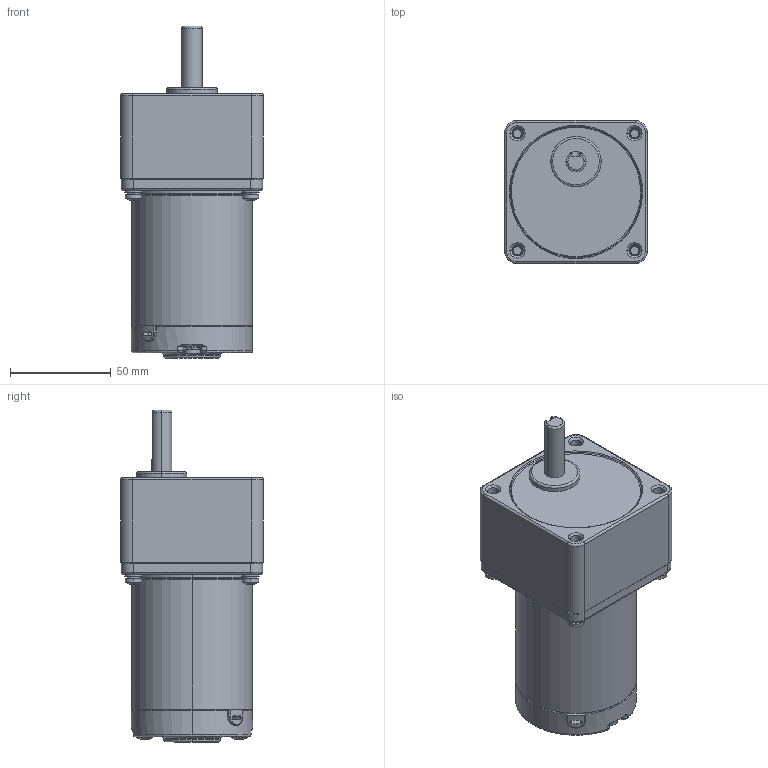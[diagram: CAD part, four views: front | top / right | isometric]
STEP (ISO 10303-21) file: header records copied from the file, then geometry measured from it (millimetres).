
FILE_DESCRIPTION (( 'STEP AP203' ), '1' );
FILE_NAME ('70 65儂褲囀离.STEP', '2021-07-13T08:27:34', ( '' ), ( '' ), 'SwSTEP 2.0', 'SolidWorks 2019', '' );
FILE_SCHEMA (( 'CONFIG_CONTROL_DESIGN' ));
Length unit declared in the file: millimetre
Products named in the file (12): 蚾饜极31^70 51儂褲囀离; 装配体38^装配体32_70 51机壳内置; 蚾饜极32^70 51儂褲囀离; 70 65儂褲囀离; 装配体37^装配体31_70 51机壳内置; TANDIAN; JIKE; PENGDIAN; QIANGAI-70; 70喘謫眊_1; LUDING; HOUGAI
Assembly tree (26 placements, depth 4):
  70 65儂褲囀离
    TANDIAN  x4
    蚾饜极31^70 51儂褲囀离
      装配体37^装配体31_70 51机壳内置
        LUDING
        TANDIAN
        PENGDIAN
    蚾饜极32^70 51儂褲囀离
      装配体38^装配体32_70 51机壳内置
        LUDING
        TANDIAN
        PENGDIAN
    LUDING  x4
    PENGDIAN  x4
    HOUGAI
    QIANGAI-70
    JIKE
    70喘謫眊_1
Bounding box: 70.8 x 70.8 x 164.5 mm (x, y, z)
Volume: 273983.3 mm3; surface area: 77042.1 mm2
Topology: 23 solids, 23 shells, 607 faces, 1422 edges, 861 vertices
Faces by surface type: cylinder 198, cone 193, plane 147, bspline 65, torus 4
Entity records: 11942 total; most frequent: CARTESIAN_POINT 3849, DIRECTION 1390, ORIENTED_EDGE 1332, EDGE_CURVE 666, AXIS2_PLACEMENT_3D 569, VERTEX_POINT 411, EDGE_LOOP 321, CIRCLE 304
